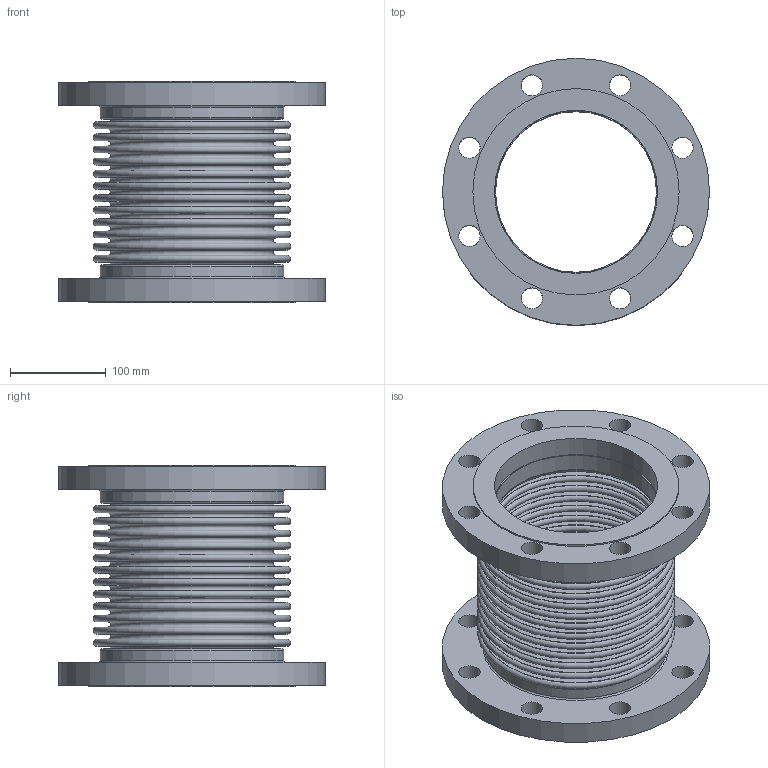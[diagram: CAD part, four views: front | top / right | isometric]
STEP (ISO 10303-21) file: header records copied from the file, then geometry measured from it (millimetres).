
FILE_DESCRIPTION(/* description */ ('EXPANSION JOINT,SINGLE, FLANGED ENDS,6 INCH NOMINAL','CAx-IF Rec.Pracs.---Representation and Presentation of Product Manufacturing Information (PMI)---4.0---2014-10-13'),/* implementation_level */ '2;1');
FILE_NAME(/* name */ 'US-06-12-150L-FLANGED ENDS.stp',/* time_stamp */ '2026-07-31T17:07:20-05:00',/* author */ ('Guadalupe'),/* organization */ (''),/* preprocessor_version */ 'ST-DEVELOPER v20.1',/* originating_system */ 'Autodesk Inventor 2026',/* authorisation */ '');
FILE_SCHEMA (('AP242_MANAGED_MODEL_BASED_3D_ENGINEERING_MIM_LF { 1 0 10303 442 2 1 4 }'));
Length unit declared in the file: inch
Products named in the file (3): 06-150L; 06-150L-02; 06-150L-01
Assembly tree (3 placements, depth 2):
  06-150L
    06-150L-02  x2
    06-150L-01
Bounding box: 279.4 x 279.4 x 231.65 mm (x, y, z)
Volume: 2201186.9 mm3; surface area: 928135.5 mm2
Topology: 5 solids, 5 shells, 144 faces, 246 edges, 164 vertices
Faces by surface type: plane 62, torus 54, cylinder 28
Full cylindrical faces by diameter (mm): 22.225 x16, 168.275 x2, 170.104 x2, 170.688 x2, 192.024 x2, 215.9 x2, 279.4 x2
Entity records: 3294 total; most frequent: DIRECTION 682, CARTESIAN_POINT 489, ORIENTED_EDGE 408, AXIS2_PLACEMENT_3D 333, EDGE_CURVE 204, EDGE_LOOP 200, CIRCLE 188, VERTEX_POINT 136
